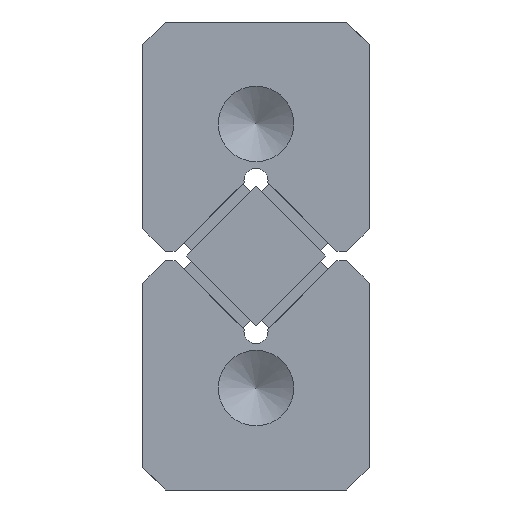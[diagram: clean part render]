
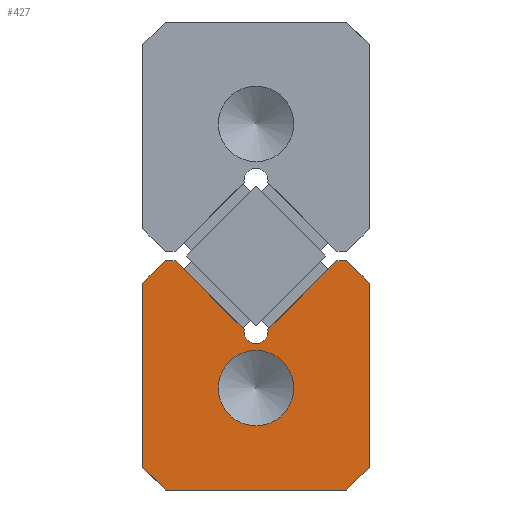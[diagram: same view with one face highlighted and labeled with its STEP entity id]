
A CAD part, left-side view. The second image highlights one B-rep face of the part: STEP entity #427.
In plain terms, the highlighted planar face has unit normal (-1, 0, 0).
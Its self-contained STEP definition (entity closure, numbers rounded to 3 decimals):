
#184=CARTESIAN_POINT('',(0.0,2.5,0.75));
#185=VERTEX_POINT('',#184);
#186=CARTESIAN_POINT('',(0.0,0.0,0.75));
#187=DIRECTION('',(1.0,0.0,0.0));
#188=DIRECTION('',(0.0,1.0,0.0));
#189=AXIS2_PLACEMENT_3D('',#186,#187,#188);
#190=CIRCLE('',#189,2.5);
#191=EDGE_CURVE('',#185,#185,#190,.T.);
#214=CARTESIAN_POINT('',(0.0,-6.,9.2));
#215=VERTEX_POINT('',#214);
#222=CARTESIAN_POINT('',(0.0,-7.5,7.7));
#223=VERTEX_POINT('',#222);
#224=CARTESIAN_POINT('',(0.0,-6.,9.2));
#225=DIRECTION('',(0.0,-0.707,-0.707));
#226=VECTOR('',#225,2.121);
#227=LINE('',#224,#226);
#228=EDGE_CURVE('',#215,#223,#227,.T.);
#245=CARTESIAN_POINT('',(0.0,-7.5,-4.5));
#246=VERTEX_POINT('',#245);
#247=CARTESIAN_POINT('',(0.0,-7.5,7.7));
#248=DIRECTION('',(0.0,0.0,-1.0));
#249=VECTOR('',#248,12.2);
#250=LINE('',#247,#249);
#251=EDGE_CURVE('',#223,#246,#250,.T.);
#336=CARTESIAN_POINT('',(0.0,0.,1.512));
#337=DIRECTION('',(1.0,0.0,0.0));
#338=DIRECTION('',(0.0,0.0,-1.0));
#339=AXIS2_PLACEMENT_3D('',#336,#337,#338);
#340=PLANE('',#339);
#341=ORIENTED_EDGE('',*,*,#228,.F.);
#342=CARTESIAN_POINT('',(0.0,-5.357,9.2));
#343=VERTEX_POINT('',#342);
#344=CARTESIAN_POINT('',(0.0,-5.357,9.2));
#345=DIRECTION('',(0.0,-1.0,0.0));
#346=VECTOR('',#345,0.643);
#347=LINE('',#344,#346);
#348=EDGE_CURVE('',#343,#215,#347,.T.);
#349=ORIENTED_EDGE('',*,*,#348,.F.);
#350=CARTESIAN_POINT('',(0.0,-0.789,4.632));
#351=VERTEX_POINT('',#350);
#352=CARTESIAN_POINT('',(0.0,-0.789,4.632));
#353=DIRECTION('',(0.0,-0.707,0.707));
#354=VECTOR('',#353,6.46);
#355=LINE('',#352,#354);
#356=EDGE_CURVE('',#351,#343,#355,.T.);
#357=ORIENTED_EDGE('',*,*,#356,.F.);
#358=CARTESIAN_POINT('',(0.0,0.789,4.632));
#359=VERTEX_POINT('',#358);
#360=CARTESIAN_POINT('',(0.0,0.0,4.5));
#361=DIRECTION('',(-1.,0.0,0.0));
#362=DIRECTION('',(0.0,0.986,-0.165));
#363=AXIS2_PLACEMENT_3D('',#360,#361,#362);
#364=CIRCLE('',#363,0.8);
#365=EDGE_CURVE('',#359,#351,#364,.T.);
#366=ORIENTED_EDGE('',*,*,#365,.F.);
#367=CARTESIAN_POINT('',(0.0,5.357,9.2));
#368=VERTEX_POINT('',#367);
#369=CARTESIAN_POINT('',(0.0,5.357,9.2));
#370=DIRECTION('',(0.0,-0.707,-0.707));
#371=VECTOR('',#370,6.46);
#372=LINE('',#369,#371);
#373=EDGE_CURVE('',#368,#359,#372,.T.);
#374=ORIENTED_EDGE('',*,*,#373,.F.);
#375=CARTESIAN_POINT('',(0.0,6.,9.2));
#376=VERTEX_POINT('',#375);
#377=CARTESIAN_POINT('',(0.0,6.,9.2));
#378=DIRECTION('',(0.0,-1.0,0.0));
#379=VECTOR('',#378,0.643);
#380=LINE('',#377,#379);
#381=EDGE_CURVE('',#376,#368,#380,.T.);
#382=ORIENTED_EDGE('',*,*,#381,.F.);
#383=CARTESIAN_POINT('',(0.0,7.5,7.7));
#384=VERTEX_POINT('',#383);
#385=CARTESIAN_POINT('',(0.0,7.5,7.7));
#386=DIRECTION('',(0.0,-0.707,0.707));
#387=VECTOR('',#386,2.121);
#388=LINE('',#385,#387);
#389=EDGE_CURVE('',#384,#376,#388,.T.);
#390=ORIENTED_EDGE('',*,*,#389,.F.);
#391=CARTESIAN_POINT('',(0.0,7.5,-4.5));
#392=VERTEX_POINT('',#391);
#393=CARTESIAN_POINT('',(0.0,7.5,-4.5));
#394=DIRECTION('',(0.0,0.0,1.0));
#395=VECTOR('',#394,12.2);
#396=LINE('',#393,#395);
#397=EDGE_CURVE('',#392,#384,#396,.T.);
#398=ORIENTED_EDGE('',*,*,#397,.F.);
#399=CARTESIAN_POINT('',(0.0,6.,-6.));
#400=VERTEX_POINT('',#399);
#401=CARTESIAN_POINT('',(0.0,6.,-6.));
#402=DIRECTION('',(0.0,0.707,0.707));
#403=VECTOR('',#402,2.121);
#404=LINE('',#401,#403);
#405=EDGE_CURVE('',#400,#392,#404,.T.);
#406=ORIENTED_EDGE('',*,*,#405,.F.);
#407=CARTESIAN_POINT('',(0.0,-6.,-6.));
#408=VERTEX_POINT('',#407);
#409=CARTESIAN_POINT('',(0.0,-6.,-6.));
#410=DIRECTION('',(0.0,1.0,0.0));
#411=VECTOR('',#410,12.);
#412=LINE('',#409,#411);
#413=EDGE_CURVE('',#408,#400,#412,.T.);
#414=ORIENTED_EDGE('',*,*,#413,.F.);
#415=CARTESIAN_POINT('',(0.0,-7.5,-4.5));
#416=DIRECTION('',(0.0,0.707,-0.707));
#417=VECTOR('',#416,2.121);
#418=LINE('',#415,#417);
#419=EDGE_CURVE('',#246,#408,#418,.T.);
#420=ORIENTED_EDGE('',*,*,#419,.F.);
#421=ORIENTED_EDGE('',*,*,#251,.F.);
#422=EDGE_LOOP('',(#341,#349,#357,#366,#374,#382,#390,#398,#406,#414,#420,#421));
#423=FACE_OUTER_BOUND('',#422,.T.);
#424=ORIENTED_EDGE('',*,*,#191,.T.);
#425=EDGE_LOOP('',(#424));
#426=FACE_BOUND('',#425,.T.);
#427=ADVANCED_FACE('',(#423,#426),#340,.F.);
